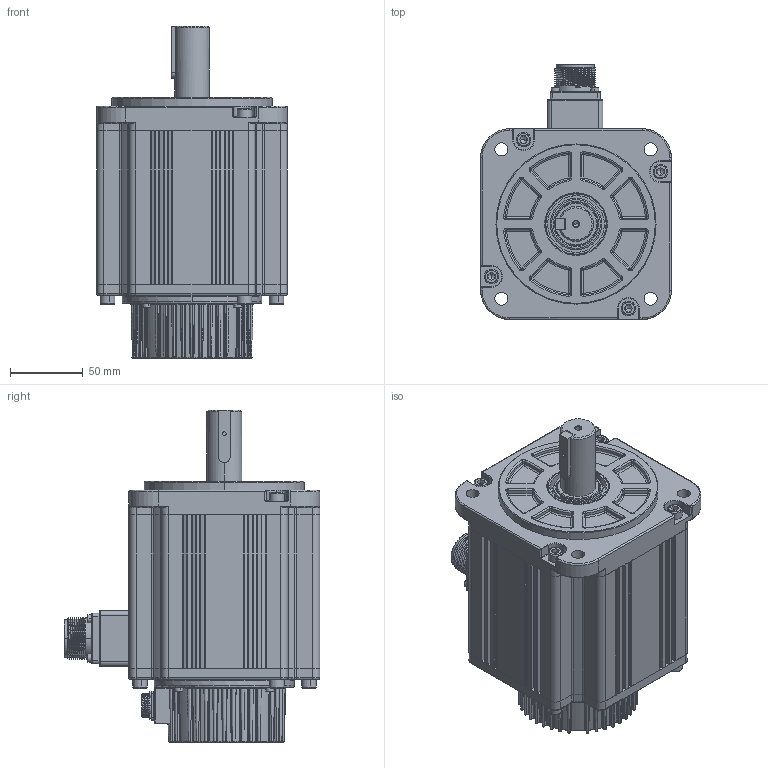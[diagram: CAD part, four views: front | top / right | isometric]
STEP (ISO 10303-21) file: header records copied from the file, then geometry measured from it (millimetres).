
FILE_DESCRIPTION (( 'STEP AP214' ), '1' );
FILE_NAME ('V7E-M13D-1R815-¡õ1B.STEP', '2022-01-13T08:21:31', ( '' ), ( '' ), 'SwSTEP 2.0', 'SolidWorks 2014', '' );
FILE_SCHEMA (( 'AUTOMOTIVE_DESIGN' ));
Length unit declared in the file: millimetre
Products named in the file (18): SC瑤諾脣芛 CMS3102A18-10P-Z; 綴傷裔200903-4晚源倛; SC晤鎢ん欶200908_9郋; V7-130#转子组件（不带刹车）; 蚐猾 D00B999YF7-TC 30-42-7; V7E-M13D-1R815-¡õ1B; 130陔ヶ傷裔200902; 囀鞠褒 M3X10; 坋趼攫芛 M2X8; SC瑤諾脣芛 16M-9H; 零件1^V7-130#电机组件（不带刹车）200927; 囀鞠褒 M3X30; 130陔ヶ傷裔200917; V7-130#定子组件（不带刹车）; 囀鞠褒 M6X20; 儂褲200901; 粣200907; 雄薯瑤脣釱200909
Assembly tree (33 placements, depth 4):
  V7E-M13D-1R815-¡õ1B
    V7-130#定子组件（不带刹车）
      囀鞠褒 M6X20  x4
      130陔ヶ傷裔200917
        130陔ヶ傷裔200902
    V7-130#转子组件（不带刹车）
      粣200907
    SC瑤諾脣芛 16M-9H
    囀鞠褒 M6X20  x4
    SC晤鎢ん欶200908_9郋
    囀鞠褒 M3X10  x4
    坋趼攫芛 M2X8  x4
    蚐猾 D00B999YF7-TC 30-42-7
    零件1^V7-130#电机组件（不带刹车）200927
    綴傷裔200903-4晚源倛
    儂褲200901
    SC瑤諾脣芛 CMS3102A18-10P-Z
    雄薯瑤脣釱200909
    囀鞠褒 M3X30  x4
Bounding box: 131 x 175.4 x 228 mm (x, y, z)
Volume: 812765.4 mm3; surface area: 308189.1 mm2
Topology: 30 solids, 30 shells, 2902 faces, 7013 edges, 4082 vertices
Faces by surface type: cylinder 1031, plane 678, torus 471, bspline 317, cone 227, sphere 178
Entity records: 129089 total; most frequent: CARTESIAN_POINT 45524, ORIENTED_EDGE 11780, DIRECTION 11619, EDGE_CURVE 5890, AXIS2_PLACEMENT_3D 4861, VERTEX_POINT 3494, EDGE_LOOP 2686, CIRCLE 2605
